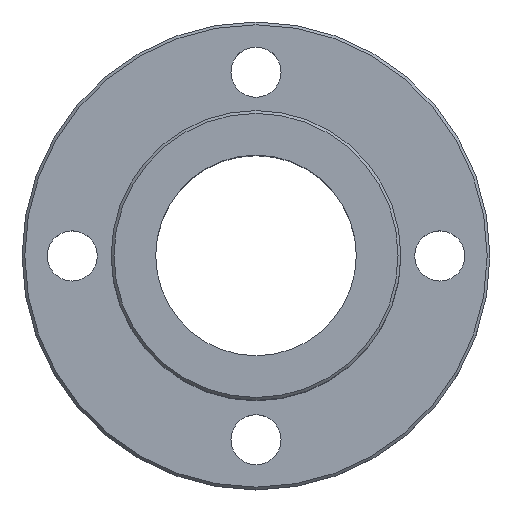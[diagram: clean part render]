
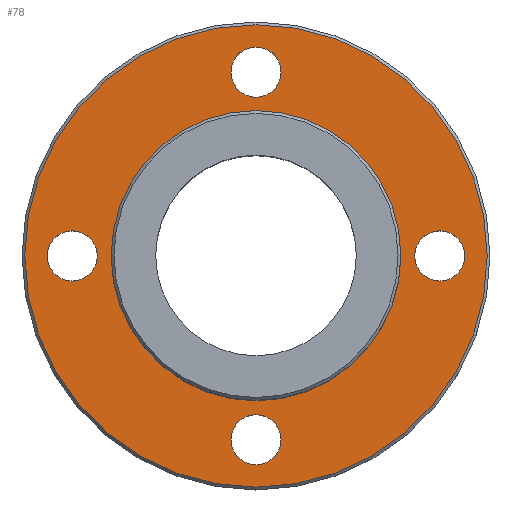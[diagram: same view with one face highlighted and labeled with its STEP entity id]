
A CAD part, top view. The second image highlights one B-rep face of the part: STEP entity #78.
In plain terms, the highlighted planar face has unit normal (0, 0, 1).
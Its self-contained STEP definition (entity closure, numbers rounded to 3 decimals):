
#78=ADVANCED_FACE('',(#102,#103,#104,#105,#106,#107),#108,.T.);
#102=FACE_BOUND('',#149,.T.);
#103=FACE_BOUND('',#150,.T.);
#104=FACE_OUTER_BOUND('',#151,.T.);
#105=FACE_BOUND('',#152,.T.);
#106=FACE_BOUND('',#153,.T.);
#107=FACE_BOUND('',#154,.T.);
#108=PLANE('',#155);
#149=EDGE_LOOP('',(#202));
#150=EDGE_LOOP('',(#203));
#151=EDGE_LOOP('',(#204));
#152=EDGE_LOOP('',(#205));
#153=EDGE_LOOP('',(#206));
#154=EDGE_LOOP('',(#207));
#155=AXIS2_PLACEMENT_3D('',#208,#209,#210);
#202=ORIENTED_EDGE('',*,*,#258,.T.);
#203=ORIENTED_EDGE('',*,*,#264,.T.);
#204=ORIENTED_EDGE('',*,*,#265,.T.);
#205=ORIENTED_EDGE('',*,*,#266,.T.);
#206=ORIENTED_EDGE('',*,*,#267,.T.);
#207=ORIENTED_EDGE('',*,*,#256,.T.);
#208=CARTESIAN_POINT('',(0.0,0.0,8.0));
#209=DIRECTION('',(0.0,0.0,1.0));
#210=DIRECTION('',(1.0,0.0,0.0));
#256=EDGE_CURVE('',#273,#273,#274,.F.);
#258=EDGE_CURVE('',#277,#277,#278,.F.);
#264=EDGE_CURVE('',#289,#289,#290,.F.);
#265=EDGE_CURVE('',#291,#291,#292,.T.);
#266=EDGE_CURVE('',#293,#293,#294,.F.);
#267=EDGE_CURVE('',#295,#295,#296,.F.);
#273=VERTEX_POINT('',#307);
#274=CIRCLE('',#308,4.5);
#277=VERTEX_POINT('',#311);
#278=CIRCLE('',#312,4.5);
#289=VERTEX_POINT('',#323);
#290=CIRCLE('',#324,4.5);
#291=VERTEX_POINT('',#325);
#292=CIRCLE('',#326,41.5);
#293=VERTEX_POINT('',#327);
#294=CIRCLE('',#328,26.0);
#295=VERTEX_POINT('',#329);
#296=CIRCLE('',#330,4.5);
#307=CARTESIAN_POINT('',(4.5,-33.0,8.0));
#308=AXIS2_PLACEMENT_3D('',#341,#342,#343);
#311=CARTESIAN_POINT('',(-28.5,0.,8.0));
#312=AXIS2_PLACEMENT_3D('',#347,#348,#349);
#323=CARTESIAN_POINT('',(37.5,0.,8.0));
#324=AXIS2_PLACEMENT_3D('',#365,#366,#367);
#325=CARTESIAN_POINT('',(41.5,0.0,8.0));
#326=AXIS2_PLACEMENT_3D('',#368,#369,#370);
#327=CARTESIAN_POINT('',(26.0,0.,8.0));
#328=AXIS2_PLACEMENT_3D('',#371,#372,#373);
#329=CARTESIAN_POINT('',(4.5,33.0,8.0));
#330=AXIS2_PLACEMENT_3D('',#374,#375,#376);
#341=CARTESIAN_POINT('',(0.,-33.0,8.0));
#342=DIRECTION('',(0.0,0.0,1.0));
#343=DIRECTION('',(1.0,0.0,0.0));
#347=CARTESIAN_POINT('',(-33.0,0.,8.0));
#348=DIRECTION('',(0.0,0.0,1.0));
#349=DIRECTION('',(1.0,0.0,0.0));
#365=CARTESIAN_POINT('',(33.0,0.0,8.0));
#366=DIRECTION('',(0.0,0.0,1.0));
#367=DIRECTION('',(1.0,0.0,0.0));
#368=CARTESIAN_POINT('',(0.0,0.0,8.0));
#369=DIRECTION('',(0.0,0.0,1.0));
#370=DIRECTION('',(1.0,0.0,0.0));
#371=CARTESIAN_POINT('',(0.,0.0,8.0));
#372=DIRECTION('',(0.0,0.0,1.0));
#373=DIRECTION('',(1.0,0.0,0.0));
#374=CARTESIAN_POINT('',(0.,33.0,8.0));
#375=DIRECTION('',(0.0,0.0,1.0));
#376=DIRECTION('',(1.0,0.0,0.0));
